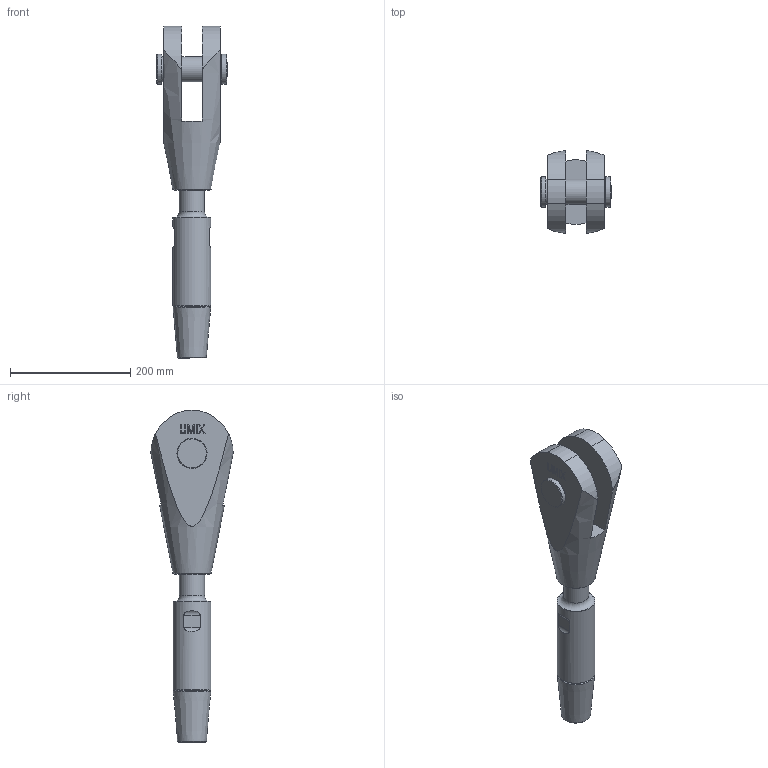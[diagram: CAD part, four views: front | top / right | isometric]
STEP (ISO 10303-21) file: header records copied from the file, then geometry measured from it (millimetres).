
FILE_DESCRIPTION(/* description */ (''),/* implementation_level */ '2;1');
FILE_NAME(/* name */ 'G:\Engineering\700 CAD\Internet-PX-1-step-igs-dxf\520-GAK-ADA-Arbeitsdateien\520-042-GAK-ADA.stp',/* time_stamp */ '2020-07-03T13:09:35+02:00',/* author */ ('schwarz'),/* organization */ (''),/* preprocessor_version */ 'ST-DEVELOPER v16.1',/* originating_system */ 'Autodesk Inventor 2016',/* authorisation */ '');
FILE_SCHEMA (('AUTOMOTIVE_DESIGN { 1 0 10303 214 3 1 1 }'));
Length unit declared in the file: centimetre
Products named in the file (1): 520-042-GAK-ADA-Kunde
Bounding box: 116.44 x 136.98 x 552 mm (x, y, z)
Volume: 2360961.5 mm3; surface area: 213308.5 mm2
Topology: 2 solids, 4 shells, 199 faces, 510 edges, 339 vertices
Faces by surface type: plane 141, cylinder 22, bspline 21, cone 14, torus 1
Full cylindrical faces by diameter (mm): 10.106 x1, 12 x1, 13.5 x1, 23.12 x1, 42 x2, 44 x1, 45 x2, 50 x2, 63 x1
Entity records: 6206 total; most frequent: CARTESIAN_POINT 1431, ORIENTED_EDGE 946, DIRECTION 816, EDGE_CURVE 473, LINE 356, VECTOR 356, VERTEX_POINT 329, EDGE_LOOP 252
